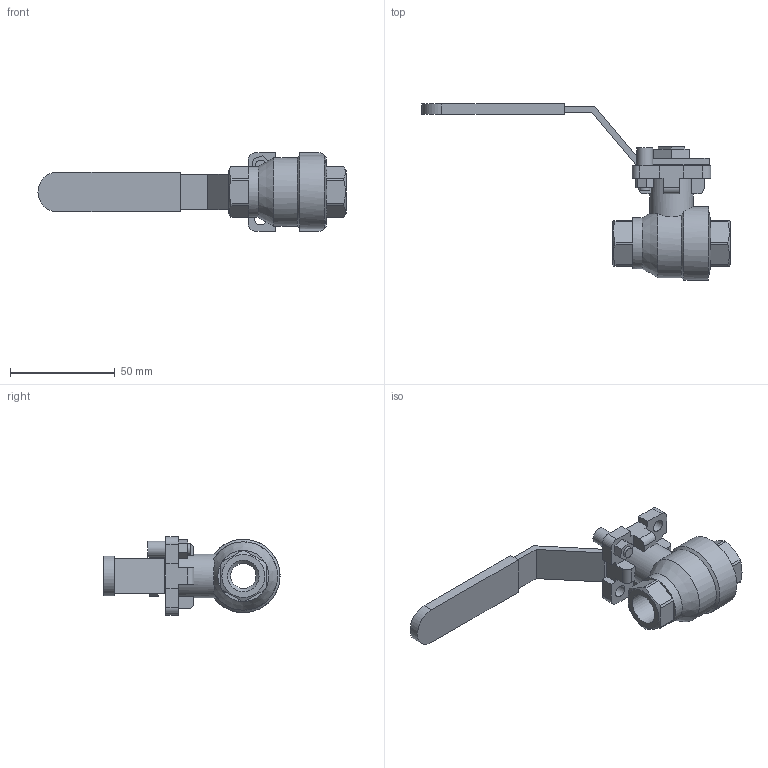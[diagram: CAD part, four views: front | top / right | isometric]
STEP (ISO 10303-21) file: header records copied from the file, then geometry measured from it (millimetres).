
FILE_DESCRIPTION (( 'STEP AP203' ), '1' );
FILE_NAME ('B3.622I010IFVPB0.STEP', '2018-09-27T15:14:23', ( 'dell2' ), ( 'Microsoft' ), 'SwSTEP 2.0', 'SolidWorks 2014', '' );
FILE_SCHEMA (( 'CONFIG_CONTROL_DESIGN' ));
Length unit declared in the file: millimetre
Products named in the file (1): B3.622I010IFVPB0
Bounding box: 147 x 84 x 37.5 mm (x, y, z)
Volume: 54668.6 mm3; surface area: 20170.2 mm2
Topology: 1 solids, 2 shells, 137 faces, 372 edges, 246 vertices
Faces by surface type: plane 101, cylinder 29, cone 7
Full cylindrical faces by diameter (mm): 5 x2, 6 x4, 7.7 x1, 12 x1, 15 x2, 20.8 x1, 24.3 x1, 35 x1
Entity records: 4403 total; most frequent: CARTESIAN_POINT 977, ORIENTED_EDGE 682, DIRECTION 670, EDGE_CURVE 341, VECTOR 240, LINE 240, VERTEX_POINT 234, AXIS2_PLACEMENT_3D 215
